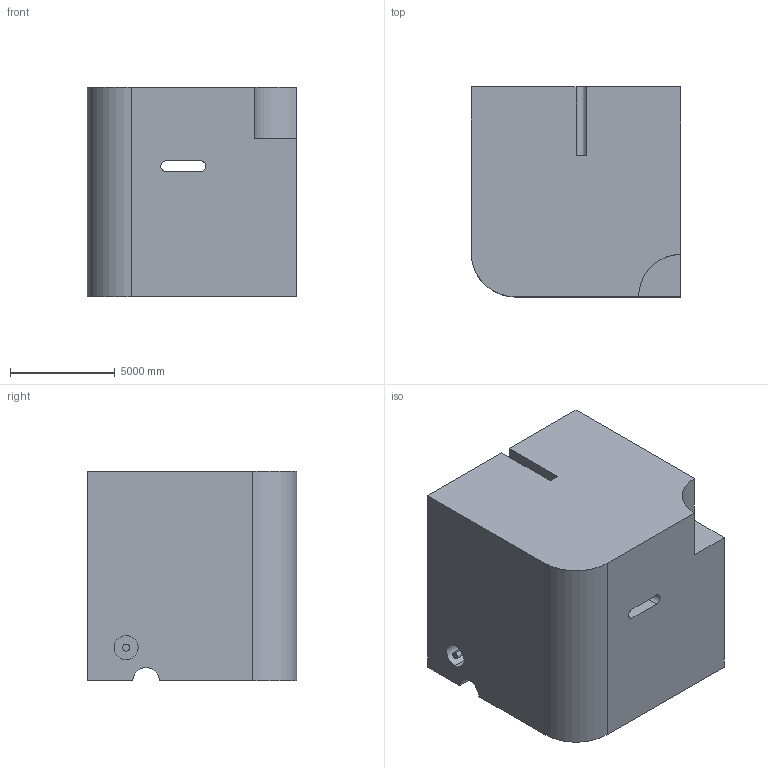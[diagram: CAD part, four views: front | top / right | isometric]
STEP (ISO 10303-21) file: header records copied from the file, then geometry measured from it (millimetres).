
FILE_DESCRIPTION (( 'STEP AP203' ), '1' );
FILE_NAME ('178.STEP', '2022-09-06T13:34:01', ( 'user' ), ( '' ), 'SwSTEP 2.0', 'SolidWorks 2021', '' );
FILE_SCHEMA (( 'CONFIG_CONTROL_DESIGN' ));
Length unit declared in the file: centimetre
Products named in the file (1): 178
Bounding box: 10000 x 10000 x 10000 mm (x, y, z)
Volume: 937937438552.9 mm3; surface area: 720796552.6 mm2
Topology: 1 solids, 1 shells, 36 faces, 93 edges, 62 vertices
Faces by surface type: plane 23, cylinder 13
Entity records: 1184 total; most frequent: DIRECTION 193, CARTESIAN_POINT 192, ORIENTED_EDGE 186, EDGE_CURVE 93, LINE 67, VECTOR 67, AXIS2_PLACEMENT_3D 63, VERTEX_POINT 62
